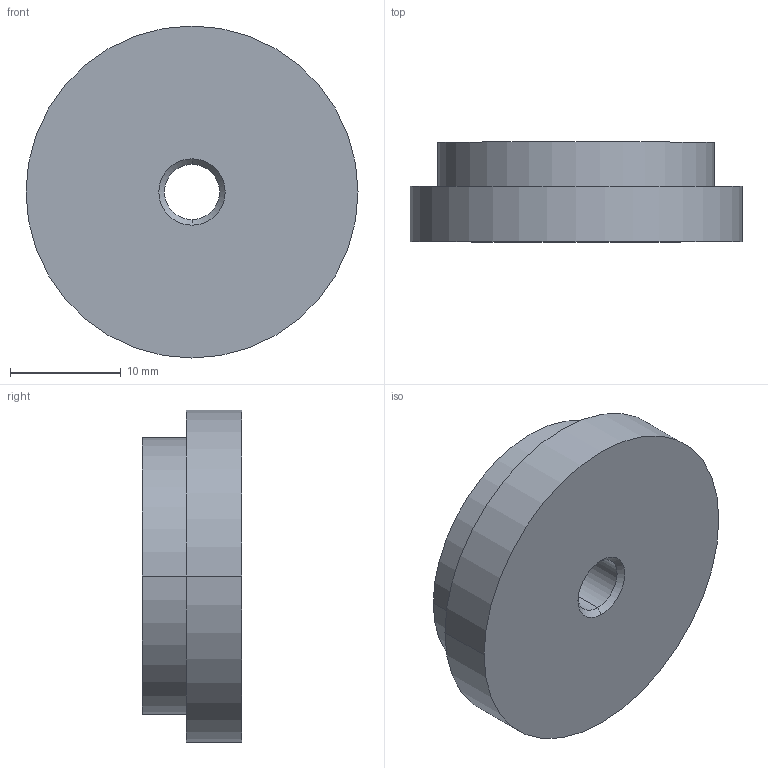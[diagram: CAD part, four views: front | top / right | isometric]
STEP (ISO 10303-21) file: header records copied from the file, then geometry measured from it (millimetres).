
FILE_DESCRIPTION (( 'STEP AP203' ), '1' );
FILE_NAME ('452530.STEP', '2018-10-15T11:38:52', ( '' ), ( '' ), 'SwSTEP 2.0', 'SolidWorks 2015', '' );
FILE_SCHEMA (( 'CONFIG_CONTROL_DESIGN' ));
Length unit declared in the file: millimetre
Products named in the file (1): 452530
Bounding box: 30 x 9 x 30 mm (x, y, z)
Volume: 5316.9 mm3; surface area: 2292.7 mm2
Topology: 1 solids, 1 shells, 13 faces, 26 edges, 16 vertices
Faces by surface type: cylinder 6, cone 4, plane 3
Entity records: 425 total; most frequent: DIRECTION 70, CARTESIAN_POINT 56, ORIENTED_EDGE 52, AXIS2_PLACEMENT_3D 30, EDGE_CURVE 26, CIRCLE 16, VERTEX_POINT 16, EDGE_LOOP 16
